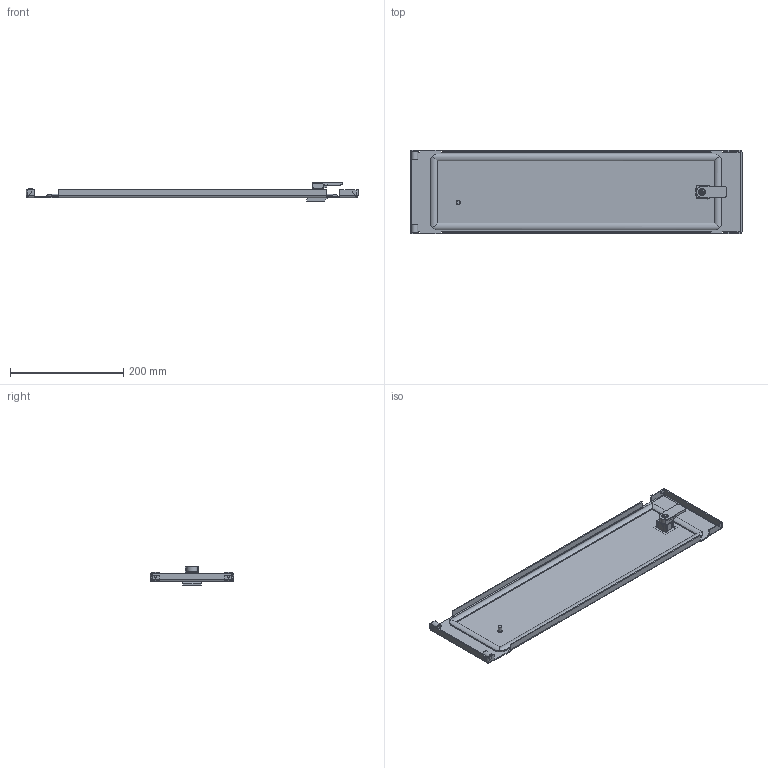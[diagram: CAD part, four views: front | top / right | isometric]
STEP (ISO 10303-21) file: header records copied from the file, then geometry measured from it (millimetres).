
FILE_DESCRIPTION(('STEP AP203'), '1');
FILE_NAME('Äâåðü ñåêöèîííàÿ 150õ600 ìì OptiBox M 419349 ÊÝÀÇ', '', ('UNSPECIFIED'), ('UNSPECIFIED'), 'C3D Converter', 'C3D Toolkit', '');
FILE_SCHEMA(('CONFIG_CONTROL_DESIGN'));
Length unit declared in the file: millimetre
Bounding box: 586.4 x 147 x 32.2 mm (x, y, z)
Volume: 276958.9 mm3; surface area: 252518.6 mm2
Topology: 6 solids, 6 shells, 355 faces, 934 edges, 594 vertices
Faces by surface type: plane 252, cylinder 92, bspline 8, cone 2, torus 1
Full cylindrical faces by diameter (mm): 0.75 x1, 1 x1, 3 x1, 5 x2, 6 x1, 7.5 x1, 9.3 x1, 10 x1, 20 x1
Entity records: 11880 total; most frequent: CARTESIAN_POINT 3066, ORIENTED_EDGE 1842, DIRECTION 1741, EDGE_CURVE 921, LINE 705, VECTOR 705, VERTEX_POINT 594, AXIS2_PLACEMENT_3D 518
